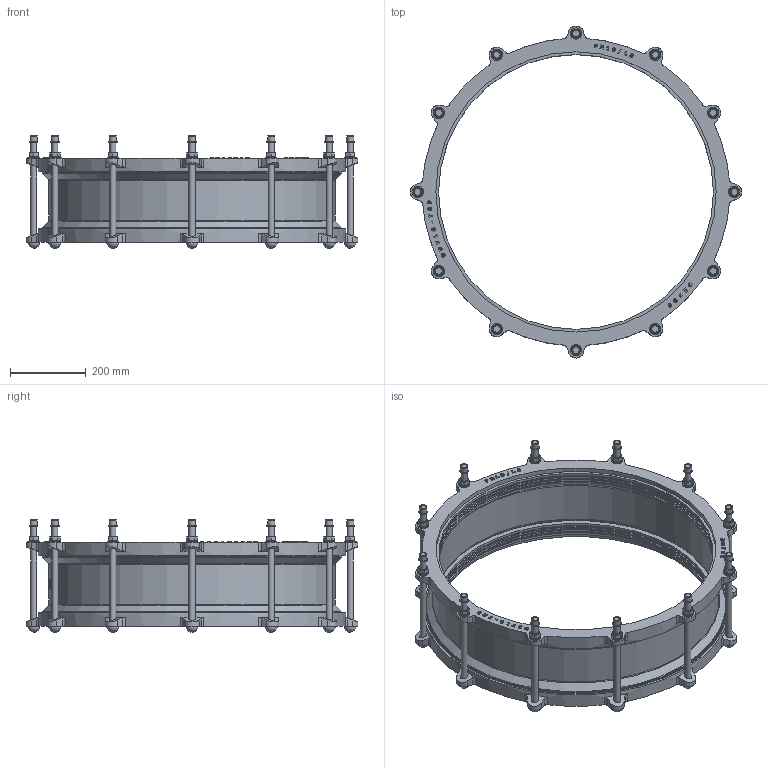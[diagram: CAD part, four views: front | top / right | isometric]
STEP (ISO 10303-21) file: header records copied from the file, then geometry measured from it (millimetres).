
FILE_DESCRIPTION(('STEP AP203'), '1');
FILE_NAME('Cîåäèíèòåëüíàÿ ìóôòà äëÿ æåñòêèõ òðóá', '', ('UNSPECIFIED'), ('UNSPECIFIED'), 'C3D Converter', 'C3D Toolkit', '');
FILE_SCHEMA(('CONFIG_CONTROL_DESIGN'));
Length unit declared in the file: millimetre
Assembly tree (53 placements, depth 2):
  (unnamed)
    (unnamed)
    (unnamed)  x12
    (unnamed)  x12
    (unnamed)  x12
    (unnamed)  x12
    (unnamed)
    (unnamed)
    (unnamed)  x2
Bounding box: 875 x 875 x 297.6 mm (x, y, z)
Volume: 12104673.8 mm3; surface area: 2661288.2 mm2
Topology: 57 solids, 57 shells, 1101 faces, 2670 edges, 1756 vertices
Faces by surface type: plane 442, extrusion 308, cylinder 219, cone 90, torus 30, sphere 12
Full cylindrical faces by diameter (mm): 16 x36, 17 x12, 18 x24, 19.2 x12, 22.4 x12, 25.619 x1, 30 x12, 724.5 x8, 731.75 x6, 739 x3, 747 x2, 755 x3, 791 x2, 795 x4, 811 x2
Entity records: 39534 total; most frequent: CARTESIAN_POINT 16770, ORIENTED_EDGE 3876, DIRECTION 2692, EDGE_CURVE 1938, VERTEX_POINT 1338, VECTOR 1186, B_SPLINE_CURVE_WITH_KNOTS 1080, EDGE_LOOP 948
